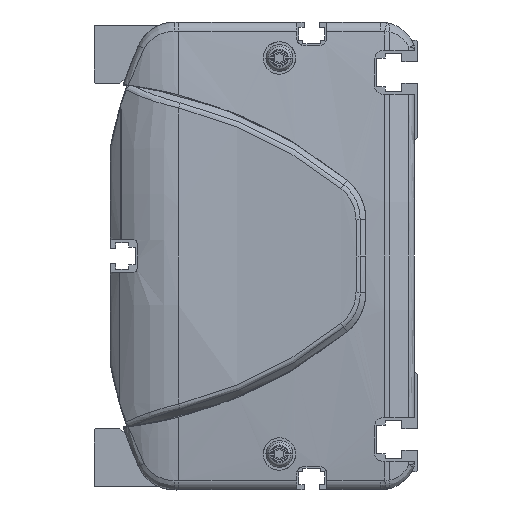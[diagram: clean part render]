
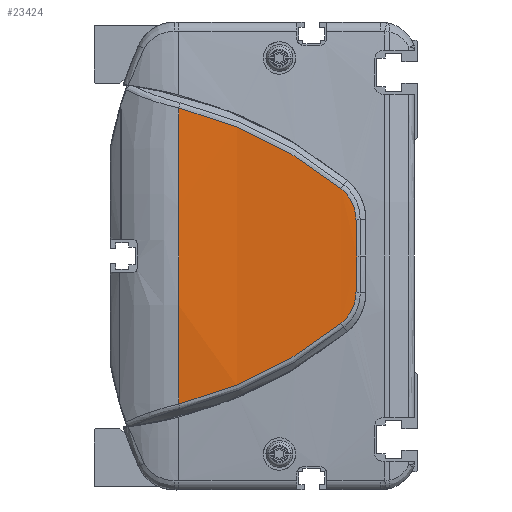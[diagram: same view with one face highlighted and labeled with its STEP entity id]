
A CAD part, left-side view. The second image highlights one B-rep face of the part: STEP entity #23424.
In plain terms, the highlighted cylindrical face has radius 500 mm (diameter 1000 mm), a partial arc.
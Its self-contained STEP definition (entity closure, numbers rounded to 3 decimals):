
#2808=CARTESIAN_POINT('',(486.,66.362,0.));
#2809=DIRECTION('',(0.,-1.,0.));
#2810=DIRECTION('',(-0.997,0.,0.082));
#2811=AXIS2_PLACEMENT_3D('',#2808,#2809,#2810);
#7777=CARTESIAN_POINT('',(-13.648,21.313,
-18.759));
#7778=CARTESIAN_POINT('',(-13.449,27.904,
-24.058));
#7779=CARTESIAN_POINT('',(-12.934,42.195,
-33.27));
#7780=CARTESIAN_POINT('',(-12.471,58.156,
-39.127));
#7781=CARTESIAN_POINT('',(-12.306,66.362,
-41.121));
#7783=CARTESIAN_POINT('',(-12.306,66.362,41.121));
#7784=CARTESIAN_POINT('',(-12.471,58.156,39.127));
#7785=CARTESIAN_POINT('',(-12.934,42.195,33.27));
#7786=CARTESIAN_POINT('',(-13.449,27.904,24.058));
#7787=CARTESIAN_POINT('',(-13.648,21.313,18.759));
#7789=CARTESIAN_POINT('',(-13.648,21.313,18.759));
#7790=CARTESIAN_POINT('',(-13.686,20.035,17.736));
#7791=CARTESIAN_POINT('',(-13.779,17.936,15.107));
#7792=CARTESIAN_POINT('',(-13.863,17.152,11.827));
#7793=CARTESIAN_POINT('',(-13.896,17.124,10.178));
#7795=CARTESIAN_POINT('',(-13.896,17.124,10.178));
#7796=CARTESIAN_POINT('',(-13.92,17.107,9.023));
#7797=CARTESIAN_POINT('',(-13.959,17.067,6.729));
#7798=CARTESIAN_POINT('',(-13.993,16.979,3.334));
#7799=CARTESIAN_POINT('',(-14.,16.898,1.106));
#7800=CARTESIAN_POINT('',(-14.,16.849,
0.));
#7802=CARTESIAN_POINT('',(-14.,16.849,
0.));
#7803=CARTESIAN_POINT('',(-14.,16.898,
-1.106));
#7804=CARTESIAN_POINT('',(-13.993,16.979,
-3.335));
#7805=CARTESIAN_POINT('',(-13.959,17.067,
-6.728));
#7806=CARTESIAN_POINT('',(-13.92,17.107,
-9.025));
#7807=CARTESIAN_POINT('',(-13.896,17.124,
-10.18));
#7809=CARTESIAN_POINT('',(-13.896,17.124,
-10.18));
#7810=CARTESIAN_POINT('',(-13.863,17.152,
-11.828));
#7811=CARTESIAN_POINT('',(-13.779,17.937,
-15.109));
#7812=CARTESIAN_POINT('',(-13.686,20.035,
-17.736));
#7813=CARTESIAN_POINT('',(-13.648,21.313,
-18.759));
#10856=VERTEX_POINT('',#7777);
#10857=VERTEX_POINT('',#7781);
#10858=CARTESIAN_POINT('',(-12.306,66.362,
41.121));
#10859=VERTEX_POINT('',#10858);
#10860=VERTEX_POINT('',#7787);
#10861=VERTEX_POINT('',#7793);
#10862=VERTEX_POINT('',#7800);
#10863=VERTEX_POINT('',#7807);
#23405=CARTESIAN_POINT('',(486.,8.006,0.));
#23406=DIRECTION('',(0.,1.,0.));
#23407=DIRECTION('',(1.,0.,0.));
#23408=AXIS2_PLACEMENT_3D('',#23405,#23406,#23407);
#23409=CYLINDRICAL_SURFACE('',#23408,500.);
#23410=ORIENTED_EDGE('',*,*,#23395,.T.);
#23411=ORIENTED_EDGE('',*,*,#17026,.F.);
#23413=ORIENTED_EDGE('',*,*,#23412,.T.);
#23415=ORIENTED_EDGE('',*,*,#23414,.T.);
#23417=ORIENTED_EDGE('',*,*,#23416,.T.);
#23419=ORIENTED_EDGE('',*,*,#23418,.T.);
#23421=ORIENTED_EDGE('',*,*,#23420,.T.);
#23422=EDGE_LOOP('',(#23410,#23411,#23413,#23415,#23417,#23419,#23421));
#23423=FACE_OUTER_BOUND('',#23422,.F.);
#23424=ADVANCED_FACE('',(#23423),#23409,.T.);
#2812=CIRCLE('',#2811,500.);
#7782=B_SPLINE_CURVE_WITH_KNOTS('',3,(#7777,#7778,#7779,#7780,#7781),
.UNSPECIFIED.,.F.,.F.,(4,1,4),(0.,0.5,1.),.UNSPECIFIED.);
#7788=B_SPLINE_CURVE_WITH_KNOTS('',3,(#7783,#7784,#7785,#7786,#7787),
.UNSPECIFIED.,.F.,.F.,(4,1,4),(0.,0.5,1.),.UNSPECIFIED.);
#7794=B_SPLINE_CURVE_WITH_KNOTS('',3,(#7789,#7790,#7791,#7792,#7793),
.UNSPECIFIED.,.F.,.F.,(4,1,4),(0.,0.5,1.),.UNSPECIFIED.);
#7801=B_SPLINE_CURVE_WITH_KNOTS('',3,(#7795,#7796,#7797,#7798,#7799,#7800),
.UNSPECIFIED.,.F.,.F.,(4,1,1,4),(0.,0.333,0.667,1.),
.UNSPECIFIED.);
#7808=B_SPLINE_CURVE_WITH_KNOTS('',3,(#7802,#7803,#7804,#7805,#7806,#7807),
.UNSPECIFIED.,.F.,.F.,(4,1,1,4),(0.,0.333,0.667,1.),
.UNSPECIFIED.);
#7814=B_SPLINE_CURVE_WITH_KNOTS('',3,(#7809,#7810,#7811,#7812,#7813),
.UNSPECIFIED.,.F.,.F.,(4,1,4),(0.,0.5,1.),.UNSPECIFIED.);
#17026=EDGE_CURVE('',#10859,#10857,#2812,.T.);
#23395=EDGE_CURVE('',#10856,#10857,#7782,.T.);
#23412=EDGE_CURVE('',#10859,#10860,#7788,.T.);
#23414=EDGE_CURVE('',#10860,#10861,#7794,.T.);
#23416=EDGE_CURVE('',#10861,#10862,#7801,.T.);
#23418=EDGE_CURVE('',#10862,#10863,#7808,.T.);
#23420=EDGE_CURVE('',#10863,#10856,#7814,.T.);
